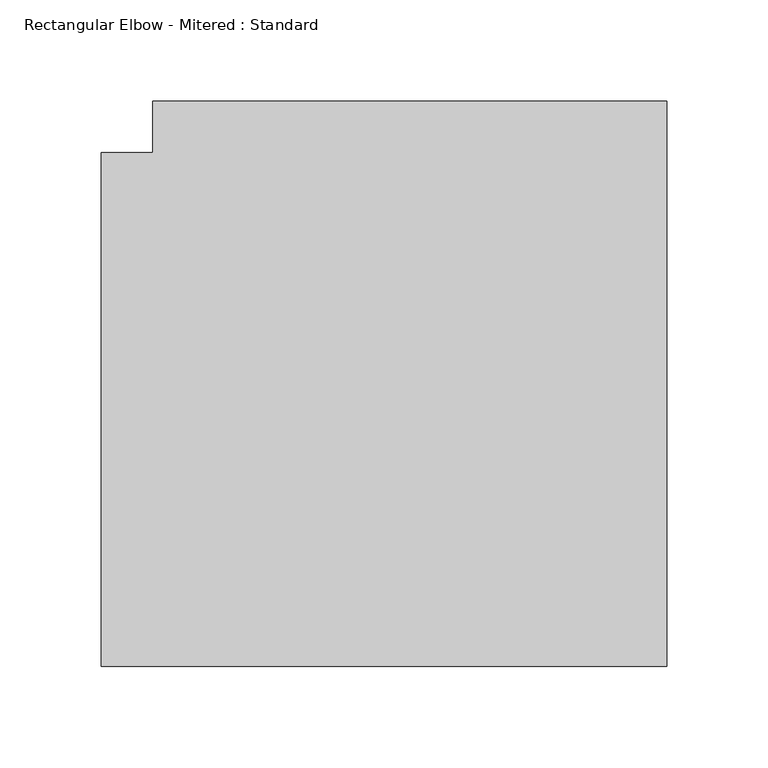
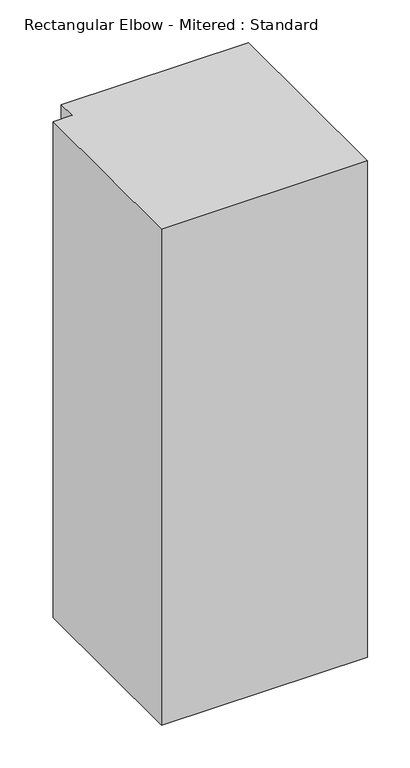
"""IFC4 building model written with IfcOpenShell, lengths in millimetres: duct fitting geometry, Rectangular Elbow - Mitered : Standard."""

from ifc_helpers import new_model, si_unit, frame, origin, place, context, project, spatial, polyline, outline, extrude, source, transform, mapped, element, save


def rectangular_elbow_mitered_standard_22d18bc9(model_context):
    return source(origin(), model_context, "Body", "SweptSolid", [
        extrude(outline(polyline([(-152.4, -127.0), (-152.4, 127.0), (-127.0, 127.0), (-127.0, 152.4), (127.0, 152.4), (127.0, -127.0), (-152.4, -127.0)])), frame((0.0, 0.0, -355.6), z_axis=(0.0, 0.0, 1.0), x_axis=(1.0, 0.0, 0.0)), (0.0, 0.0, 1.0), 711.2),
    ])


if __name__ == "__main__":
    model = new_model("IFC4")
    model_context = context("Model", 3, world=origin())
    ifc_project = project(units=[si_unit("LENGTHUNIT", "METRE", prefix="MILLI")], contexts=[model_context])
    site = spatial("IfcSite", under=ifc_project)
    building = spatial("IfcBuilding", under=site)
    placement = place(None, origin())
    rectangular_elbow_mitered_standard_shape = rectangular_elbow_mitered_standard_22d18bc9(model_context)
    element("IfcDuctFitting", 1, ObjectType="Rectangular Elbow - Mitered : Standard", at=placement, inside=building, context=model_context, shape_type="MappedRepresentation", body=[
        mapped(rectangular_elbow_mitered_standard_shape, transform((0.0, 0.0, 0.0), x_axis=(1.0, 0.0, 0.0), y_axis=(0.0, 1.0, 0.0), z_axis=(0.0, 0.0, 1.0))),
    ])
    save(model, "model.ifc")
